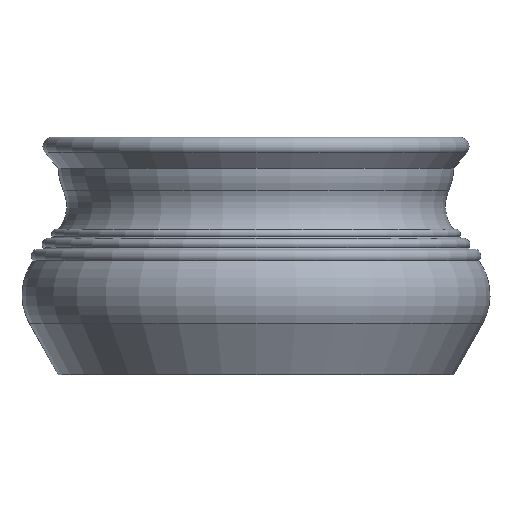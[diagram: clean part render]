
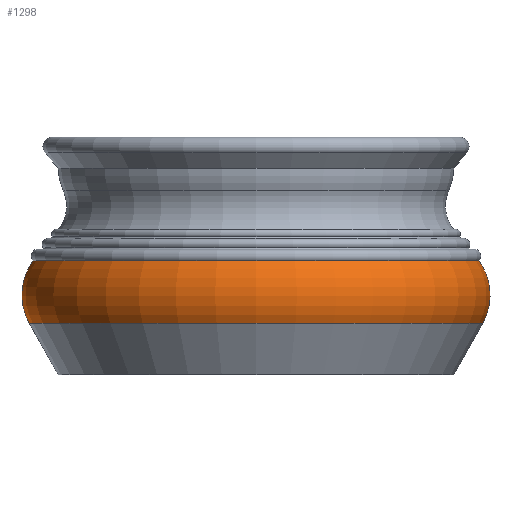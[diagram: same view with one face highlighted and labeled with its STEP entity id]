
A CAD part, front view. The second image highlights one B-rep face of the part: STEP entity #1298.
In plain terms, the highlighted toroidal (fillet/blend) face has major radius 92.45 mm and minor radius 30.55 mm.
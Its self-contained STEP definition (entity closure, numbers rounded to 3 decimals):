
#22=TOROIDAL_SURFACE('',#1475,92.45,30.55);
#164=FACE_OUTER_BOUND('',#280,.T.);
#280=EDGE_LOOP('',(#1187,#1188,#1189,#1190));
#517=CIRCLE('',#1439,119.128);
#539=CIRCLE('',#1476,117.152);
#540=CIRCLE('',#1477,30.55);
#642=VERTEX_POINT('',#2198);
#657=VERTEX_POINT('',#2257);
#805=EDGE_CURVE('',#642,#642,#517,.T.);
#834=EDGE_CURVE('',#657,#657,#539,.T.);
#835=EDGE_CURVE('',#657,#642,#540,.T.);
#1187=ORIENTED_EDGE('',*,*,#834,.F.);
#1188=ORIENTED_EDGE('',*,*,#835,.T.);
#1189=ORIENTED_EDGE('',*,*,#805,.T.);
#1190=ORIENTED_EDGE('',*,*,#835,.F.);
#1298=ADVANCED_FACE('',(#164),#22,.T.);
#1439=AXIS2_PLACEMENT_3D('',#2199,#1805,#1806);
#1475=AXIS2_PLACEMENT_3D('',#2256,#1884,#1885);
#1476=AXIS2_PLACEMENT_3D('',#2258,#1886,#1887);
#1477=AXIS2_PLACEMENT_3D('',#2259,#1888,#1889);
#1805=DIRECTION('center_axis',(0.,0.,1.));
#1806=DIRECTION('ref_axis',(1.,0.,0.));
#1884=DIRECTION('center_axis',(0.,0.,1.));
#1885=DIRECTION('ref_axis',(1.,0.,0.));
#1886=DIRECTION('center_axis',(0.,0.,1.));
#1887=DIRECTION('ref_axis',(1.,0.,0.));
#1888=DIRECTION('center_axis',(0.,-1.,0.));
#1889=DIRECTION('ref_axis',(-1.,0.,0.));
#2198=CARTESIAN_POINT('',(-119.128,0.,27.115));
#2199=CARTESIAN_POINT('Origin',(0.,0.,27.115));
#2256=CARTESIAN_POINT('Origin',(0.,0.,42.));
#2257=CARTESIAN_POINT('',(-117.152,0.,59.976));
#2258=CARTESIAN_POINT('Origin',(0.,0.,59.976));
#2259=CARTESIAN_POINT('Origin',(-92.45,0.,
42.));
